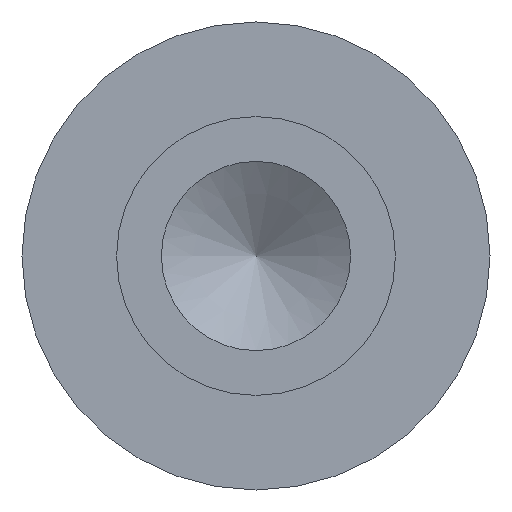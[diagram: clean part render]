
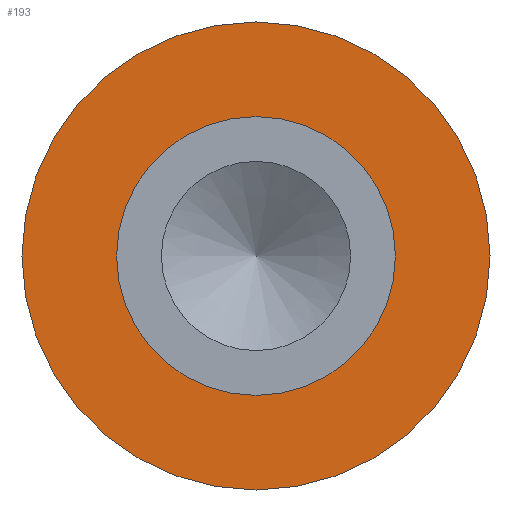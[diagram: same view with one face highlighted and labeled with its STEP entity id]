
A CAD part, left-side view. The second image highlights one B-rep face of the part: STEP entity #193.
In plain terms, the highlighted planar face has unit normal (-1, 0, 0).
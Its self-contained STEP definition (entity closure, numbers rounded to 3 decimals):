
#15=FACE_BOUND($,#67,.T.);
#36=CIRCLE($,#217,1.422);
#38=CIRCLE($,#220,2.388);
#51=FACE_OUTER_BOUND($,#66,.T.);
#66=EDGE_LOOP($,(#155));
#67=EDGE_LOOP($,(#156));
#106=VERTEX_POINT($,#330);
#108=VERTEX_POINT($,#335);
#127=EDGE_CURVE($,#106,#106,#36,.T.);
#129=EDGE_CURVE($,#108,#108,#38,.T.);
#155=ORIENTED_EDGE($,*,*,#129,.F.);
#156=ORIENTED_EDGE($,*,*,#127,.T.);
#181=PLANE($,#219);
#193=ADVANCED_FACE($,(#51,#15),#181,.T.);
#217=AXIS2_PLACEMENT_3D($,#331,#269,#270);
#219=AXIS2_PLACEMENT_3D($,#334,#273,#274);
#220=AXIS2_PLACEMENT_3D($,#336,#275,#276);
#269=DIRECTION('center_axis',(1.,0.,0.));
#270=DIRECTION('ref_axis',(0.,1.,0.));
#273=DIRECTION('center_axis',(-1.,0.,0.));
#274=DIRECTION('ref_axis',(0.,0.,1.));
#275=DIRECTION('center_axis',(1.,0.,0.));
#276=DIRECTION('ref_axis',(0.,1.,0.));
#330=CARTESIAN_POINT('',(1.981,1.422,0.));
#331=CARTESIAN_POINT('Origin',(1.981,0.,0.));
#334=CARTESIAN_POINT('Origin',(1.981,1.905,0.));
#335=CARTESIAN_POINT('',(1.981,2.388,0.));
#336=CARTESIAN_POINT('Origin',(1.981,0.,0.));
